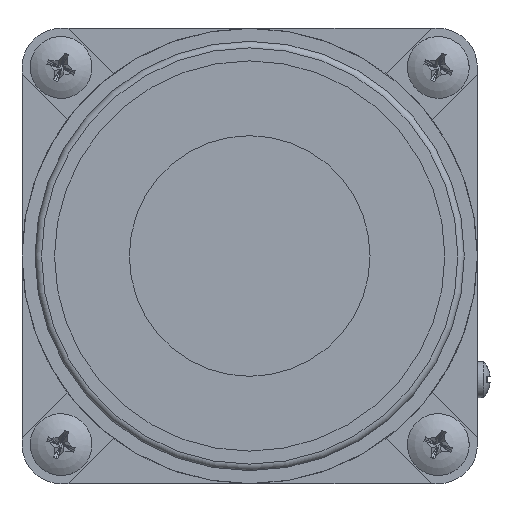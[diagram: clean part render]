
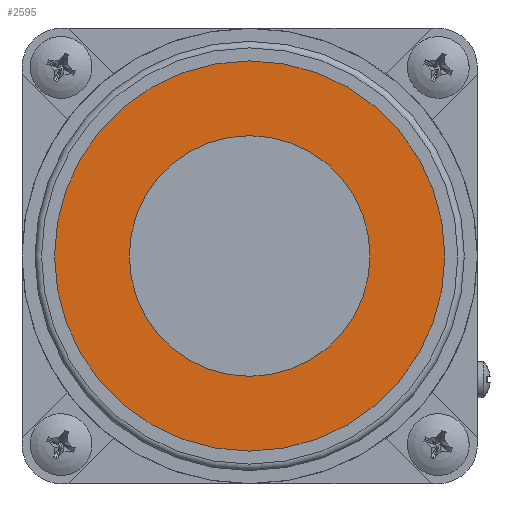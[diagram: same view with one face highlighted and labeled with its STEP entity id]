
A CAD part, left-side view. The second image highlights one B-rep face of the part: STEP entity #2595.
In plain terms, the highlighted planar face has unit normal (-1, 0, 0).
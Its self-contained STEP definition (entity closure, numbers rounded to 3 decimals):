
#2252=PLANE('',#7439);
#2595=ADVANCED_FACE('',(#2937,#2938),#2252,.T.);
#2937=FACE_BOUND('',#3404,.T.);
#2938=FACE_BOUND('',#3405,.T.);
#3404=EDGE_LOOP('',(#4762));
#3405=EDGE_LOOP('',(#4763));
#4762=ORIENTED_EDGE('',*,*,#6335,.F.);
#4763=ORIENTED_EDGE('',*,*,#6334,.F.);
#5588=VERTEX_POINT('',#11829);
#5589=VERTEX_POINT('',#11832);
#6334=EDGE_CURVE('',#5588,#5588,#6732,.T.);
#6335=EDGE_CURVE('',#5589,#5589,#6733,.T.);
#6732=CIRCLE('',#7436,30.);
#6733=CIRCLE('',#7438,18.5);
#7436=AXIS2_PLACEMENT_3D('',#11828,#8546,#8547);
#7438=AXIS2_PLACEMENT_3D('',#11831,#8550,#8551);
#7439=AXIS2_PLACEMENT_3D('',#11833,#8552,#8553);
#8546=DIRECTION('',(1.,0.,0.));
#8547=DIRECTION('',(0.,0.,-1.));
#8550=DIRECTION('',(-1.,0.,0.));
#8551=DIRECTION('',(0.,0.,-1.));
#8552=DIRECTION('',(-1.,0.,0.));
#8553=DIRECTION('',(0.,0.,-1.));
#11828=CARTESIAN_POINT('',(-79.,0.,0.));
#11829=CARTESIAN_POINT('',(-79.,0.,-30.));
#11831=CARTESIAN_POINT('',(-79.,0.,0.));
#11832=CARTESIAN_POINT('',(-79.,0.,-18.5));
#11833=CARTESIAN_POINT('',(-79.,0.,0.));
